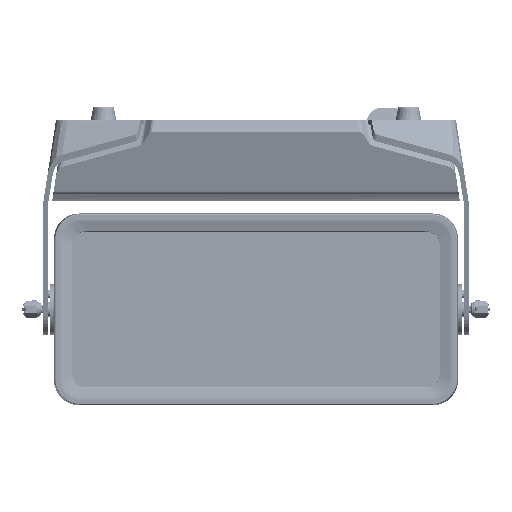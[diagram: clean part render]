
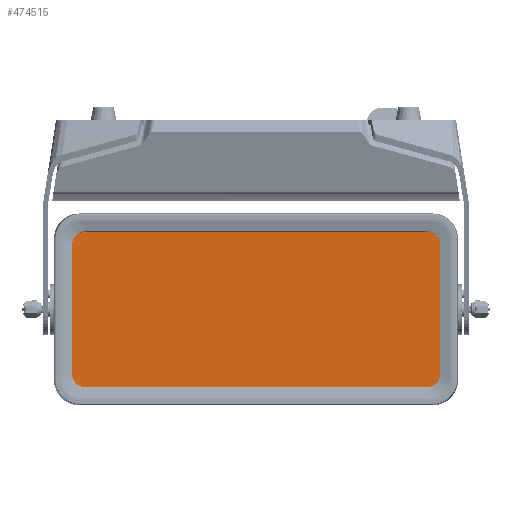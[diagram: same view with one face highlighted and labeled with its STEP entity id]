
A CAD part, left-side view. The second image highlights one B-rep face of the part: STEP entity #474515.
In plain terms, the highlighted planar face has unit normal (-1, 0, 0).
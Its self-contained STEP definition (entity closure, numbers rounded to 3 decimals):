
#474309=CARTESIAN_POINT('',(-53.2,175.5,-270.3));
#474310=VERTEX_POINT('',#474309);
#474317=CARTESIAN_POINT('',(-53.2,187.5,-258.3));
#474318=VERTEX_POINT('',#474317);
#474319=CARTESIAN_POINT('',(-53.2,175.5,-258.3));
#474320=DIRECTION('',(1.,-0.,-0.));
#474321=DIRECTION('',(0.,1.,0.));
#474322=AXIS2_PLACEMENT_3D('',#474319,#474320,#474321);
#474323=CIRCLE('',#474322,12.);
#474324=EDGE_CURVE('',#474310,#474318,#474323,.T.);
#474341=CARTESIAN_POINT('',(-53.2,187.5,-117.3));
#474342=VERTEX_POINT('',#474341);
#474343=CARTESIAN_POINT('',(-53.2,187.5,-258.3));
#474344=DIRECTION('',(-0.,-0.,1.));
#474345=VECTOR('',#474344,141.);
#474346=LINE('',#474343,#474345);
#474347=EDGE_CURVE('',#474318,#474342,#474346,.T.);
#474366=CARTESIAN_POINT('',(-53.2,175.5,-105.3));
#474367=VERTEX_POINT('',#474366);
#474368=CARTESIAN_POINT('',(-53.2,175.5,-117.3));
#474369=DIRECTION('',(1.,-0.,-0.));
#474370=DIRECTION('',(0.,1.,0.));
#474371=AXIS2_PLACEMENT_3D('',#474368,#474369,#474370);
#474372=CIRCLE('',#474371,12.);
#474373=EDGE_CURVE('',#474342,#474367,#474372,.T.);
#474392=CARTESIAN_POINT('',(-53.2,-175.5,-105.3));
#474393=VERTEX_POINT('',#474392);
#474394=CARTESIAN_POINT('',(-53.2,175.5,-105.3));
#474395=DIRECTION('',(0.,-1.,0.));
#474396=VECTOR('',#474395,351.);
#474397=LINE('',#474394,#474396);
#474398=EDGE_CURVE('',#474367,#474393,#474397,.T.);
#474415=CARTESIAN_POINT('',(-53.2,-187.5,-117.3));
#474416=VERTEX_POINT('',#474415);
#474417=CARTESIAN_POINT('',(-53.2,-175.5,-117.3));
#474418=DIRECTION('',(1.,-0.,-0.));
#474419=DIRECTION('',(0.,1.,0.));
#474420=AXIS2_PLACEMENT_3D('',#474417,#474418,#474419);
#474421=CIRCLE('',#474420,12.);
#474422=EDGE_CURVE('',#474393,#474416,#474421,.T.);
#474441=CARTESIAN_POINT('',(-53.2,-187.5,-258.3));
#474442=VERTEX_POINT('',#474441);
#474443=CARTESIAN_POINT('',(-53.2,-187.5,-117.3));
#474444=DIRECTION('',(0.,0.,-1.));
#474445=VECTOR('',#474444,141.);
#474446=LINE('',#474443,#474445);
#474447=EDGE_CURVE('',#474416,#474442,#474446,.T.);
#474464=CARTESIAN_POINT('',(-53.2,-175.5,-270.3));
#474465=VERTEX_POINT('',#474464);
#474466=CARTESIAN_POINT('',(-53.2,-175.5,-258.3));
#474467=DIRECTION('',(1.,-0.,-0.));
#474468=DIRECTION('',(0.,1.,0.));
#474469=AXIS2_PLACEMENT_3D('',#474466,#474467,#474468);
#474470=CIRCLE('',#474469,12.);
#474471=EDGE_CURVE('',#474442,#474465,#474470,.T.);
#474488=CARTESIAN_POINT('',(-53.2,-175.5,-270.3));
#474489=DIRECTION('',(-0.,1.,-0.));
#474490=VECTOR('',#474489,351.);
#474491=LINE('',#474488,#474490);
#474492=EDGE_CURVE('',#474465,#474310,#474491,.T.);
#474500=CARTESIAN_POINT('',(-53.2,0.,-187.8));
#474501=DIRECTION('',(1.,0.,0.));
#474502=DIRECTION('',(0.,-1.,0.));
#474503=AXIS2_PLACEMENT_3D('',#474500,#474501,#474502);
#474504=PLANE('',#474503);
#474505=ORIENTED_EDGE('',*,*,#474471,.F.);
#474506=ORIENTED_EDGE('',*,*,#474447,.F.);
#474507=ORIENTED_EDGE('',*,*,#474422,.F.);
#474508=ORIENTED_EDGE('',*,*,#474398,.F.);
#474509=ORIENTED_EDGE('',*,*,#474373,.F.);
#474510=ORIENTED_EDGE('',*,*,#474347,.F.);
#474511=ORIENTED_EDGE('',*,*,#474324,.F.);
#474512=ORIENTED_EDGE('',*,*,#474492,.F.);
#474513=EDGE_LOOP('',(#474505,#474506,#474507,#474508,#474509,#474510,#474511,#474512));
#474514=FACE_BOUND('',#474513,.T.);
#474515=ADVANCED_FACE('',(#474514),#474504,.F.);
